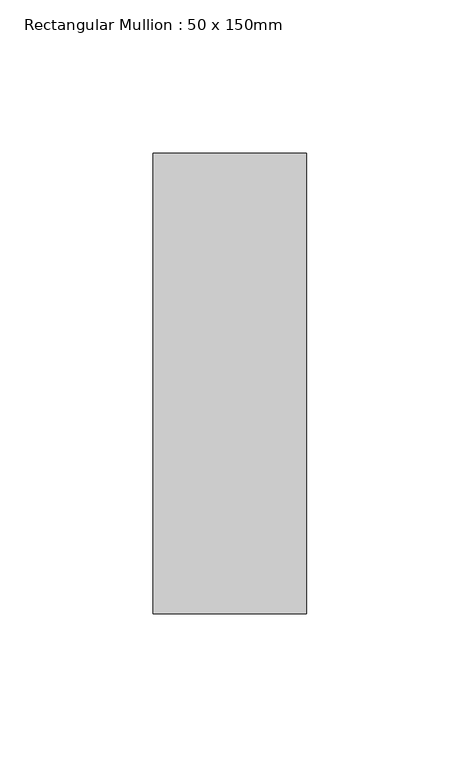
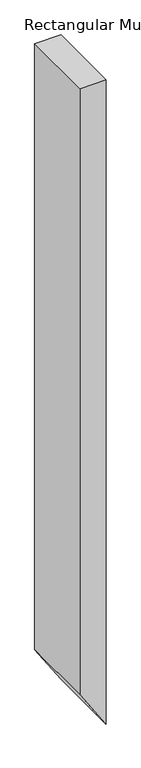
"""IFC4 building model written with IfcOpenShell, lengths in millimetres: member geometry, Rectangular Mullion : 50 x 150mm."""

import ifcopenshell
import ifcopenshell.guid

model = None  # the IFC model being written
_history = None  # IfcOwnerHistory: only IFC2X3 demands one
_inside = {}  # id of a spatial element -> (the spatial element, [elements in it])
_under = {}  # id of a project, library or spatial element -> (it, [spatial elements below it])
_declared = {}  # id of a project -> (the project, [libraries it declares])
_typed = {}  # id of a type object -> (the type object, [elements of that type])
_made_of = {}  # id of a material, layer set ... -> (it, [elements and type objects made of it])


def new_model(schema):
    """Start an empty IFC model of exactly this schema.

    Asked for "IFC4X3", IfcOpenShell would pick the latest addendum, in which some entities
    have other attributes; the version numbers below select the first issue.
    IFC2X3 requires an IfcOwnerHistory on every rooted entity: one is made here for all.
    """
    global model, _history
    if schema == "IFC4X3":
        model = ifcopenshell.file(schema_version=(4, 3, 0, 0))
    else:
        model = ifcopenshell.file(schema=schema)
    _inside.clear()
    _under.clear()
    _declared.clear()
    _typed.clear()
    _made_of.clear()
    _history = None
    if model.schema == "IFC2X3":
        org = make("IfcOrganization", Name="unknown")
        user = make(
            "IfcPersonAndOrganization",
            ThePerson=make("IfcPerson", FamilyName="unknown"),
            TheOrganization=org,
        )
        app = make(
            "IfcApplication",
            ApplicationDeveloper=org,
            Version="unknown",
            ApplicationFullName="unknown",
            ApplicationIdentifier="unknown",
        )
        _history = make(
            "IfcOwnerHistory",
            OwningUser=user,
            OwningApplication=app,
            ChangeAction="ADDED",
            CreationDate=0,
        )
    return model


def make(cls, **values):
    """One entity of the class cls with the attributes given. An attribute that is None is left unset."""
    return model.create_entity(
        cls, **{name: value for name, value in values.items() if value is not None}
    )


def rooted(cls, **values):
    """An entity with a GlobalId (a new one), such as an element, a storey or a relation."""
    return make(cls, GlobalId=ifcopenshell.guid.new(), OwnerHistory=_history, **values)


def si_unit(unit_type, name, prefix=None):
    """IfcSIUnit, for example si_unit("LENGTHUNIT", "METRE", prefix="MILLI")."""
    return make("IfcSIUnit", UnitType=unit_type, Prefix=prefix, Name=name)


def assignment(units):
    """IfcUnitAssignment: the units of a project."""
    return None if units is None else make("IfcUnitAssignment", Units=units)


def point(xyz):
    """IfcCartesianPoint."""
    return None if xyz is None else make("IfcCartesianPoint", Coordinates=xyz)


def direction(xyz):
    """IfcDirection."""
    return None if xyz is None else make("IfcDirection", DirectionRatios=xyz)


def frame(location, z_axis=None, x_axis=None):
    """IfcAxis2Placement3D, a coordinate frame: its origin and axes. An axis left out is left unset."""
    return make(
        "IfcAxis2Placement3D",
        Location=point(location),
        Axis=direction(z_axis),
        RefDirection=direction(x_axis),
    )


def origin():
    """The frame at (0, 0, 0) with its axes left unset."""
    return frame((0.0, 0.0, 0.0))


def place(relative_to, where):
    """IfcLocalPlacement: puts the frame where relative to a parent placement (None: the world)."""
    return make(
        "IfcLocalPlacement", PlacementRelTo=relative_to, RelativePlacement=where
    )


def context(
    kind, dimensions, precision=None, world=None, true_north=None, identifier=None
):
    """IfcGeometricRepresentationContext, for example the 3D "Model" context."""
    return make(
        "IfcGeometricRepresentationContext",
        ContextIdentifier=identifier,
        ContextType=kind,
        CoordinateSpaceDimension=dimensions,
        Precision=precision,
        WorldCoordinateSystem=world,
        TrueNorth=true_north,
    )


def project(units=None, contexts=None):
    """IfcProject with its units and contexts."""
    return rooted(
        "IfcProject",
        Name="project",
        RepresentationContexts=contexts,
        UnitsInContext=assignment(units),
    )


def spatial(cls, under=None, at=None, **own):
    """A site, building, storey or space (cls), placed at a placement, below another one or the project."""
    s = rooted(cls, ObjectPlacement=at, **own)
    if under is not None:
        _under.setdefault(under.id(), (under, []))[1].append(s)
    return s


def polyline(points):
    """IfcPolyline through the points."""
    return make("IfcPolyline", Points=[point(p) for p in points])


def outline(outer, holes=None, kind="AREA"):
    """IfcArbitraryClosedProfileDef: a profile drawn as a closed curve; with holes, ...WithVoids."""
    if holes is None:
        return make("IfcArbitraryClosedProfileDef", ProfileType=kind, OuterCurve=outer)
    return make(
        "IfcArbitraryProfileDefWithVoids",
        ProfileType=kind,
        OuterCurve=outer,
        InnerCurves=holes,
    )


def extrude(swept, where, along, depth):
    """IfcExtrudedAreaSolid: the profile swept, set in the frame where, extruded along a direction by depth."""
    return make(
        "IfcExtrudedAreaSolid",
        SweptArea=swept,
        Position=where,
        ExtrudedDirection=direction(along),
        Depth=depth,
    )


def shape(context_of_items, identifier, shape_type, items):
    """IfcShapeRepresentation: the items that make up one representation, for example the "Body"."""
    return make(
        "IfcShapeRepresentation",
        ContextOfItems=context_of_items,
        RepresentationIdentifier=identifier,
        RepresentationType=shape_type,
        Items=items,
    )


def source(mapping_origin, context_of_items, identifier, shape_type, items):
    """IfcRepresentationMap: a shape defined once, which mapped items show again and again."""
    return make(
        "IfcRepresentationMap",
        MappingOrigin=mapping_origin,
        MappedRepresentation=shape(context_of_items, identifier, shape_type, items),
    )


def transform(
    local_origin,
    x_axis=None,
    y_axis=None,
    z_axis=None,
    scale=None,
    scale2=None,
    scale3=None,
    uniform=True,
):
    """IfcCartesianTransformationOperator3D, or its non-uniform kind. x_axis, y_axis, z_axis: its Axis1, 2, 3."""
    if uniform:
        return make(
            "IfcCartesianTransformationOperator3D",
            Axis1=direction(x_axis),
            Axis2=direction(y_axis),
            LocalOrigin=point(local_origin),
            Scale=scale,
            Axis3=direction(z_axis),
        )
    return make(
        "IfcCartesianTransformationOperator3DnonUniform",
        Axis1=direction(x_axis),
        Axis2=direction(y_axis),
        LocalOrigin=point(local_origin),
        Scale=scale,
        Axis3=direction(z_axis),
        Scale2=scale2,
        Scale3=scale3,
    )


def mapped(mapping_source, mapping_target):
    """IfcMappedItem: shows the shape of a source again, moved by a transform."""
    return make(
        "IfcMappedItem", MappingSource=mapping_source, MappingTarget=mapping_target
    )


def made_of(thing, what):
    """Note that an element or type object is made of a material, layer set ...; save() writes the relation."""
    if what is not None:
        _made_of.setdefault(what.id(), (what, []))[1].append(thing)
    return thing


def element(
    cls,
    number,
    at=None,
    inside=None,
    cuts=None,
    type_object=None,
    material=None,
    context=None,
    identifier="Body",
    shape_type=None,
    held_by="IfcProductDefinitionShape",
    body=None,
    shapes=None,
    **own,
):
    """One element of the class cls, such as IfcWall. Its Tag is "e" and its number.

    at: its placement. inside: the storey or other place that contains it. cuts: it is an
    opening in that element (IfcRelVoidsElement). A single representation is given by context,
    identifier, shape_type and body (its items); several are given by shapes. held_by: the class
    of the entity that holds the representations. save() writes the other relations.
    """
    e = rooted(cls, Tag="e%d" % number, ObjectPlacement=at, **own)
    if body is not None:
        shapes = [shape(context, identifier, shape_type, body)]
    if shapes is not None:
        e.Representation = make(held_by, Representations=shapes)
    if inside is not None:
        _inside.setdefault(inside.id(), (inside, []))[1].append(e)
    if cuts is not None:
        rooted(
            "IfcRelVoidsElement", RelatingBuildingElement=cuts, RelatedOpeningElement=e
        )
    if type_object is not None:
        _typed.setdefault(type_object.id(), (type_object, []))[1].append(e)
    return made_of(e, material)


def aggregate(whole, parts):
    """IfcRelAggregates: a whole, such as a stair, and the parts it consists of."""
    return rooted("IfcRelAggregates", RelatingObject=whole, RelatedObjects=parts)


def save(model, path):
    """Write the relations noted so far, then the file.

    IfcRelAggregates (storeys below a building ...), IfcRelContainedInSpatialStructure (elements
    in a storey), IfcRelDefinesByType, IfcRelAssociatesMaterial and IfcRelDeclares: one each for
    every whole, place, type object, material and project.
    """
    for whole, parts in _under.values():
        aggregate(whole, parts)
    for where, things in _inside.values():
        rooted(
            "IfcRelContainedInSpatialStructure",
            RelatedElements=things,
            RelatingStructure=where,
        )
    for kind, things in _typed.values():
        rooted("IfcRelDefinesByType", RelatedObjects=things, RelatingType=kind)
    for what, things in _made_of.values():
        rooted("IfcRelAssociatesMaterial", RelatedObjects=things, RelatingMaterial=what)
    for by, libraries in _declared.values():
        rooted("IfcRelDeclares", RelatingContext=by, RelatedDefinitions=libraries)
    model.write(path)


def rectangular_mullion_50_x_150mm_96b15f6b(model_context):
    return source(origin(), model_context, "Body", "SweptSolid", [
        extrude(outline(polyline([(0.0, 25.0), (0.0, -25.0), (-1227.033009, -25.0), (-1304.294114, 25.0), (0.0, 25.0)])), frame((0.0, -75.0, 0.0), z_axis=(0.0, 1.0, 0.0), x_axis=(0.0, 0.0, 1.0)), (0.0, 0.0, 1.0), 150.0),
    ])


if __name__ == "__main__":
    model = new_model("IFC4")
    model_context = context("Model", 3, world=origin())
    ifc_project = project(units=[si_unit("LENGTHUNIT", "METRE", prefix="MILLI")], contexts=[model_context])
    site = spatial("IfcSite", under=ifc_project)
    building = spatial("IfcBuilding", under=site)
    placement = place(None, origin())
    rectangular_mullion_50_x_150mm_shape = rectangular_mullion_50_x_150mm_96b15f6b(model_context)
    element("IfcMember", 1, ObjectType="Rectangular Mullion : 50 x 150mm", at=placement, inside=building, context=model_context, shape_type="MappedRepresentation", body=[
        mapped(rectangular_mullion_50_x_150mm_shape, transform((0.0, 0.0, 0.0), x_axis=(1.0, 0.0, 0.0), y_axis=(0.0, 1.0, 0.0), z_axis=(0.0, 0.0, 1.0))),
    ])
    save(model, "model.ifc")
